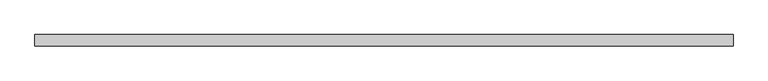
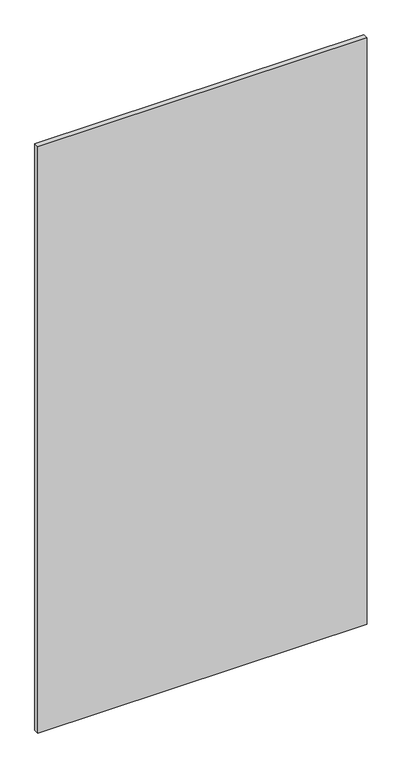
"""IFC4 building model written with IfcOpenShell, lengths in millimetres: plate geometry, 系统嵌板 : 玻璃."""

from ifc_helpers import new_model, si_unit, origin, origin_with_axes, place, context, project, spatial, polyline, outline, extrude, source, transform, mapped, element, save


def plate_ce25694f(model_context):
    return source(origin(), model_context, "Body", "SweptSolid", [
        extrude(outline(polyline([(785.0, -12.5), (-785.0, -12.5), (-785.0, 12.5), (785.0, 12.5), (785.0, -12.5)])), origin_with_axes(), (0.0, 0.0, 1.0), 2955.0),
    ])


if __name__ == "__main__":
    model = new_model("IFC4")
    model_context = context("Model", 3, world=origin())
    ifc_project = project(units=[si_unit("LENGTHUNIT", "METRE", prefix="MILLI")], contexts=[model_context])
    site = spatial("IfcSite", under=ifc_project)
    building = spatial("IfcBuilding", under=site)
    placement = place(None, origin())
    plate_shape = plate_ce25694f(model_context)
    element("IfcPlate", 1, ObjectType="系统嵌板 : 玻璃", at=placement, inside=building, context=model_context, shape_type="MappedRepresentation", body=[
        mapped(plate_shape, transform((0.0, 0.0, 0.0), x_axis=(1.0, 0.0, 0.0), y_axis=(0.0, 1.0, 0.0), z_axis=(0.0, 0.0, 1.0))),
    ])
    save(model, "model.ifc")
